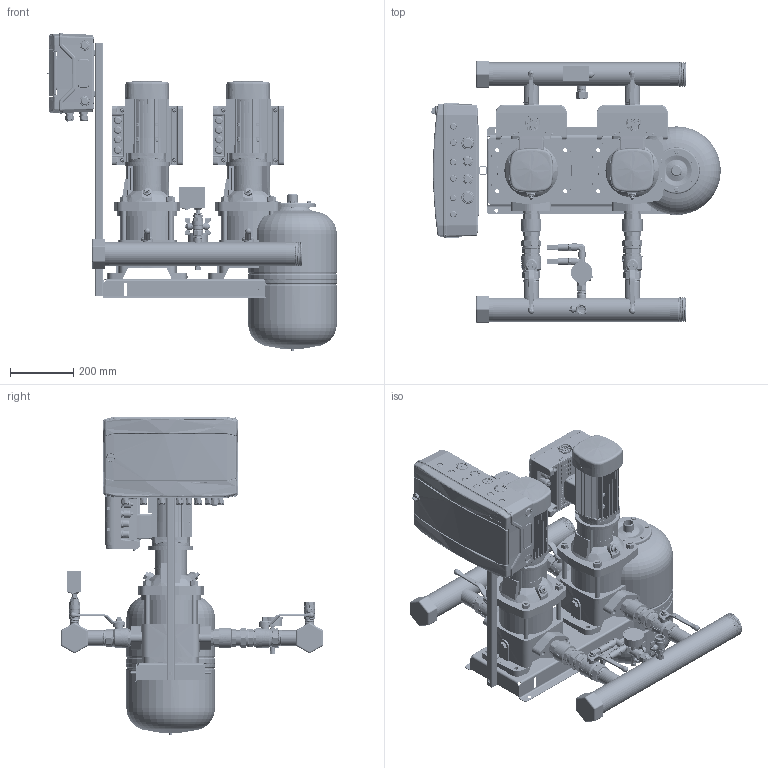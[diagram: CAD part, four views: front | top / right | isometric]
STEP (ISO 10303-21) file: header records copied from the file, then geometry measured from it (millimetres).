
FILE_DESCRIPTION(('CATIA V5 STEP Exchange','CAx-IF Rec.Pracs.--- Model Styling and Organization---1.4--- 2014-01-23','CAx-IF Rec.Pracs.---3D Tessellated Data Validation Properties---0.5---2014-09-14'),'2;1');
FILE_NAME('C:\Users\78432\YandexDisk\Drawings and 3D\3D Hydro Booster\Hydro-ME 3D\Hydro Models\Hydro ME 2 CRV10-xx\Hydro ME 2 CRVE10-3.stp','2023-09-20T09:19:29+00:00',('none'),('none'),'CATIA Version 5-6 Release 2019 SP6','CATIA V5 STEP AP242 v1','none');
FILE_SCHEMA(('AP242_MANAGED_MODEL_BASED_3D_ENGINEERING_MIM_LF {1 0 10303 442 1 1 4}'));
Length unit declared in the file: millimetre
Products named in the file (46): Hydro ME 2 CRVE10-3; 92051008; CRV10-3 Set; CRV 10-3_A_Oval_1.1kW; Base; Flange.1; Flange.2; Sleeve; Pumphead; Staybolt.1; Staybolt.2; Staybolt.3; Staybolt.4; Plug; AirVent; Motor; 92807544_9022-05; Hydraulica NY DN32 1,5 PN16; DN40_FM_LV_47.303.40; 92807557_9013-05; SAJ PDH30 0,75-2,2kW; 97941444; 405801; 405816; 91040267; 97941481; 00ID7527; Holder and CP 18mod; 92878909; Control ME (18mod); 2 sensors + manometer cpl.; manometr 16 bar; RPD-I-G1_2; 9021-01; 2070 1/2-1/2; _2020 1/2-1/2; 98594078; Tank 24L cpl.; DN20_FF_BF_47.300.20; WAV-24(D140 1'')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
Assembly tree (53 placements, depth 4):
  Hydro ME 2 CRVE10-3
    92051008
    CRV10-3 Set  x2
      CRV 10-3_A_Oval_1.1kW
        Base
        Flange.1
        Flange.2
        Sleeve
        Pumphead
        Staybolt.1
        Staybolt.2
        Staybolt.3
        Staybolt.4
        Plug
        AirVent
        Motor
      92807544_9022-05
      Hydraulica NY DN32 1,5 PN16
      DN40_FM_LV_47.303.40
      92807557_9013-05
      SAJ PDH30 0,75-2,2kW
    97941444  x2
      405801
      405816
      91040267
      97941481
    00ID7527  x2
    Holder and CP 18mod
      92878909
      Control ME (18mod)
    2 sensors + manometer cpl.
      manometr 16 bar
      RPD-I-G1_2  x2
      9021-01
      2070 1/2-1/2
      _2020 1/2-1/2
      98594078
    Tank 24L cpl.
      DN20_FF_BF_47.300.20
      9021-03
    Relay cpl.
      Relay RD-2R
      DN20_FF_BF_47.300.20
      2530 3/4-1/2
      _2530 1/2-1/4
    91078139
  WAV-24(D140 1'')
Bounding box: 916.82 x 829.22 x 1009.9 mm (x, y, z)
Volume: 56291325.4 mm3; surface area: 6077016.8 mm2
Topology: 166 solids, 182 shells, 24431 faces, 70366 edges, 47056 vertices
Faces by surface type: plane 9500, bspline 6586, cylinder 6053, cone 1541, torus 338, extrusion 260, sphere 153
Entity records: 592503 total; most frequent: CARTESIAN_POINT 291262, ORIENTED_EDGE 77910, EDGE_CURVE 39428, DIRECTION 35487, VERTEX_POINT 26320, VECTOR 16315, LINE 16250, B_SPLINE_CURVE_WITH_KNOTS 15682
